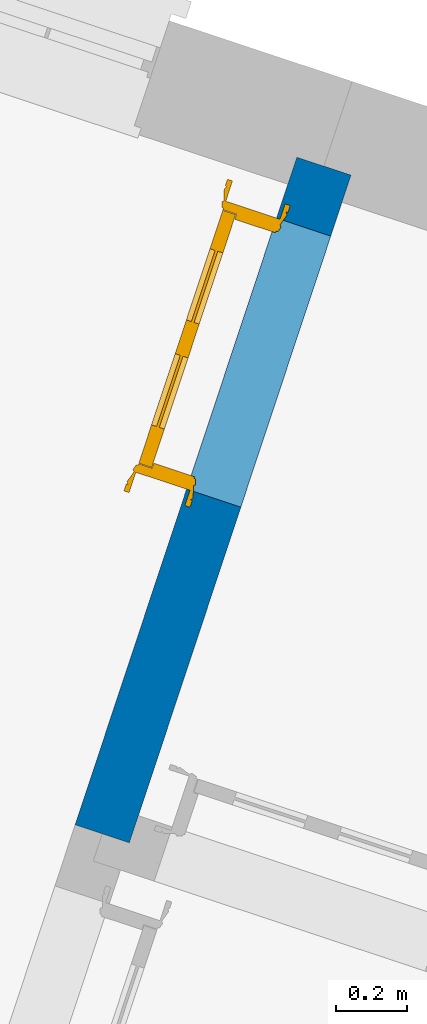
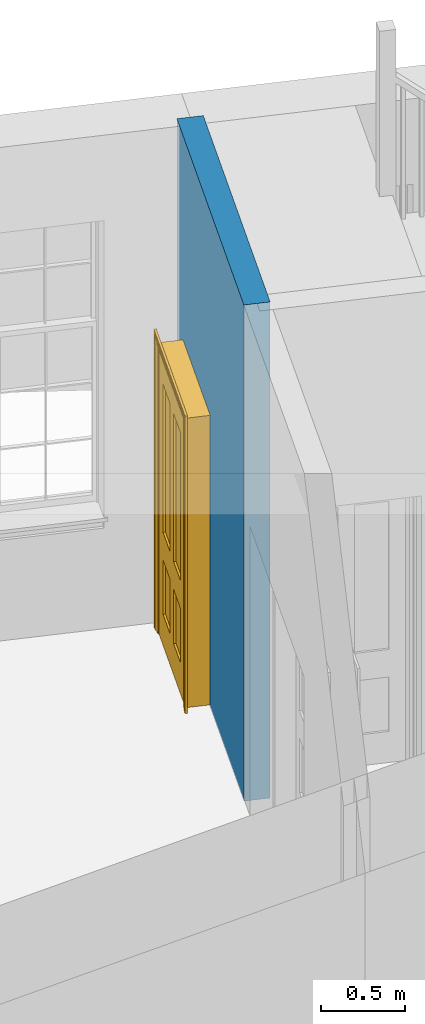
# One storey, part 3 of 6: 1 door, 1 wall, 1 opening.
"""IFC4 building model written with IfcOpenShell, lengths in metres."""

from ifc_helpers import new_model, si_unit, frame, origin, origin_with_axes, place, context, subcontext, project, spatial, polyline, outline, extrude, faceted_brep, source, transform, mapped, material, layer, layer_set, layer_usage, type_object, type_shapes, element, fill, save


model = new_model("IFC4")

# Units and contexts
model_context = context("Model", 3, world=origin_with_axes())
body_context = subcontext(model_context, "Body", "Model", "MODEL_VIEW")
ifc_project = project(units=[si_unit("PLANEANGLEUNIT", "RADIAN"), si_unit("MASSUNIT", "GRAM", prefix="KILO"), si_unit("FORCEUNIT", "NEWTON", prefix="KILO"), si_unit("LENGTHUNIT", "METRE"), si_unit("AREAUNIT", "SQUARE_METRE"), si_unit("VOLUMEUNIT", "CUBIC_METRE")], contexts=[model_context, model_context])

# Sites, building, storey
site_1_placement = place(None, origin_with_axes())
site_1 = spatial("IfcSite", under=ifc_project, at=site_1_placement, Name="Tamar")
site_2_placement = place(site_1_placement, origin_with_axes())
site_2 = spatial("IfcSite", under=site_1, at=site_2_placement, Name="Site plot-17", CompositionType="ELEMENT")
building_placement = place(None, origin_with_axes())
building = spatial("IfcBuilding", under=site_2, at=building_placement, Name="Building plot-17", CompositionType="ELEMENT")
storey_placement = place(None, frame((0.0, 0.0, 26.8), z_axis=(0.0, 0.0, 1.0), x_axis=(1.0, 0.0, 0.0)))
storey = spatial("IfcBuildingStorey", under=building, at=storey_placement, Name="plot-17 0", CompositionType="ELEMENT", Elevation=26.8)

# Wall, opening, door
ifc_material = material(Name="Masonry")
ifc_layer = layer(ifc_material, 0.16, ventilated=False)
ifc_layer_set = layer_set([ifc_layer], Name="interior_0.08_0.08")
ifc_layer_usage = layer_usage(ifc_layer_set, "AXIS2", "POSITIVE", -0.08)
wall_type = type_object("IfcWallType", Name="interior_0.08_0.08", PredefinedType="SOLIDWALL", material=ifc_layer_set)
wall_placement = place(storey_placement, frame((270.492843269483, 304.488688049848, 0.0), z_axis=(0.0, 0.0, 1.0), x_axis=(0.315038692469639, 0.949078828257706, 0.0)))
wall = element("IfcWall", 1, at=wall_placement, inside=storey, type_object=wall_type, material=ifc_layer_usage, Name="interior", context=body_context, shape_type="SweptSolid", body=[
    extrude(outline(polyline([(-1.14526030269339e-14, 0.0799999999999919), (1.1462400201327e-14, -0.0799999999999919), (1.9709590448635, -0.0799999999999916), (1.97095904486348, 0.079999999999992), (-1.14526030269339e-14, 0.0799999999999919)])), origin_with_axes(), (0.0, 0.0, 1.0), 3.6),
])
opening_placement = place(wall_placement, frame((0.990959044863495, 0.0, 0.0199999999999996)))
opening = element("IfcOpeningElement", 2, at=opening_placement, cuts=wall, Name="My Opening", ObjectType="Opening", context=body_context, shape_type="SweptSolid", body=[
    extrude(outline(polyline([(0.0, -0.100000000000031), (0.799999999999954, -0.100000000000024), (0.799999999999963, 1.10000000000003), (8.32667268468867e-15, 1.10000000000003), (0.0, -0.100000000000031)])), origin_with_axes(), (0.0, 0.0, 1.0), 2.1),
])
door_type = type_object("IfcDoorType", Name="door_inside", OperationType="SINGLE_SWING_LEFT", PredefinedType="NOTDEFINED")
shared_shape = source(origin(), body_context, "Body", "Brep", [
    faceted_brep([(0.773, 0.33, 1.895), (0.66, 0.33, 1.895), (0.66, 0.33, 2.073), (0.773, 0.33, 2.073), (0.773, 0.33, 0.82), (0.66, 0.33, 0.82), (0.45, 0.33, 1.895), (0.45, 0.33, 2.073), (0.773, 0.33, 0.62), (0.66, 0.33, 0.62), (0.66, 0.315, 0.82), (0.66, 0.315, 1.895), (0.45, 0.315, 1.895), (0.35, 0.33, 1.895), (0.35, 0.33, 2.073), (0.773, 0.33, 0.225), (0.66, 0.33, 0.225), (0.45, 0.33, 0.62), (0.45, 0.33, 0.82), (0.45, 0.315, 0.82), (0.35, 0.33, 0.82), (0.14, 0.33, 2.073), (0.14, 0.33, 1.895), (0.773, 0.33, 0.0), (0.66, 0.33, 0.0), (0.66, 0.315, 0.225), (0.66, 0.315, 0.62), (0.45, 0.315, 0.62), (0.35, 0.33, 0.62), (0.35, 0.315, 0.82), (0.35, 0.315, 1.895), (0.14, 0.315, 1.895), (0.027, 0.33, 2.073), (0.027, 0.33, 1.895), (0.773, 0.292, 0.0), (0.66, 0.292, 0.0), (0.45, 0.33, 0.0), (0.45, 0.33, 0.225), (0.45, 0.315, 0.225), (0.35, 0.33, 0.225), (0.14, 0.33, 0.82), (0.14, 0.33, 0.62), (0.14, 0.315, 0.82), (0.027, 0.33, 0.82), (0.773, 0.292, 0.225), (0.66, 0.292, 0.225), (0.45, 0.292, 0.0), (0.35, 0.33, 0.0), (0.35, 0.315, 0.225), (0.35, 0.315, 0.62), (0.14, 0.315, 0.62), (0.027, 0.33, 0.62), (0.773, 0.292, 0.62), (0.66, 0.292, 0.62), (0.45, 0.292, 0.225), (0.35, 0.292, 0.0), (0.14, 0.33, 0.225), (0.14, 0.33, 0.0), (0.14, 0.315, 0.225), (0.027, 0.33, 0.225), (0.773, 0.292, 0.82), (0.66, 0.292, 0.82), (0.66, 0.307, 0.62), (0.66, 0.307, 0.225), (0.45, 0.307, 0.225), (0.35, 0.292, 0.225), (0.14, 0.292, 0.0), (0.027, 0.33, 0.0), (0.773, 0.292, 1.895), (0.66, 0.292, 1.895), (0.45, 0.292, 0.62), (0.45, 0.292, 0.82), (0.45, 0.307, 0.62), (0.35, 0.292, 0.62), (0.14, 0.292, 0.225), (0.027, 0.292, 0.0), (0.773, 0.292, 2.073), (0.66, 0.292, 2.073), (0.66, 0.307, 1.895), (0.66, 0.307, 0.82), (0.45, 0.307, 0.82), (0.35, 0.292, 0.82), (0.35, 0.307, 0.62), (0.35, 0.307, 0.225), (0.14, 0.307, 0.225), (0.027, 0.292, 0.225), (0.45, 0.292, 1.895), (0.45, 0.292, 2.073), (0.45, 0.307, 1.895), (0.35, 0.292, 1.895), (0.14, 0.292, 0.82), (0.14, 0.292, 0.62), (0.14, 0.307, 0.62), (0.027, 0.292, 0.62), (0.35, 0.292, 2.073), (0.35, 0.307, 1.895), (0.35, 0.307, 0.82), (0.14, 0.307, 0.82), (0.027, 0.292, 0.82), (0.14, 0.292, 2.073), (0.14, 0.292, 1.895), (0.14, 0.307, 1.895), (0.027, 0.292, 1.895), (0.027, 0.292, 2.073), (0.02, 0.335, 0.0), (0.005, 0.34, 0.0), (0.005, 0.34, 2.095), (0.02, 0.335, 2.08), (0.02, 0.33, 0.0), (0.0, 0.335, 0.0), (0.0, 0.335, 2.1), (0.795, 0.34, 2.095), (0.78, 0.335, 2.08), (0.02, 0.33, 2.08), (0.0, 0.33, 0.0), (-0.032, 0.345, 0.0), (-0.032, 0.345, 2.132), (0.8, 0.335, 2.1), (0.795, 0.34, 0.0), (0.78, 0.335, 0.0), (0.78, 0.33, 2.08), (0.04, 0.29, 0.0), (0.025, 0.29, 0.0), (0.025, 0.29, 2.075), (0.04, 0.29, 2.06), (-0.04, 0.34, 0.0), (-0.04, 0.34, 2.14), (0.832, 0.345, 2.132), (0.8, 0.335, 0.0), (0.78, 0.33, 0.0), (0.8, 0.33, 0.0), (0.86, 0.33, 0.0), (0.86, 0.33, 2.16), (0.8, 0.33, 2.1), (-0.06, 0.33, 2.16), (0.0, 0.33, 2.1), (-0.06, 0.33, 0.0), (-0.04, 0.345, 0.0), (-0.04, 0.345, 2.14), (0.84, 0.34, 2.14), (0.832, 0.345, 0.0), (0.84, 0.34, 0.0), (0.86, 0.345, 0.0), (0.86, 0.345, 2.16), (-0.06, 0.345, 2.16), (-0.06, 0.345, 0.0), (0.84, 0.345, 0.0), (0.84, 0.345, 2.14), (-0.025, 0.155, 0.0), (-0.025, 0.16, 0.0), (-0.025, 0.16, 2.125), (-0.025, 0.155, 2.125), (-0.017, 0.155, 0.0), (-0.017, 0.155, 2.117), (0.825, 0.16, 2.125), (0.825, 0.155, 2.125), (0.825, 0.155, 0.0), (0.845, 0.155, 0.0), (-0.045, 0.155, 2.145), (-0.045, 0.155, 0.0), (0.845, 0.155, 2.145), (0.015, 0.165, 0.0), (0.015, 0.165, 2.085), (0.817, 0.155, 2.117), (0.825, 0.16, 0.0), (0.845, 0.17, 0.0), (0.845, 0.17, 2.145), (-0.045, 0.17, 2.145), (-0.045, 0.17, 0.0), (0.02, 0.16, 0.0), (0.02, 0.16, 2.08), (0.785, 0.165, 2.085), (0.817, 0.155, 0.0), (0.8, 0.17, 0.0), (0.8, 0.17, 2.1), (0.0, 0.17, 2.1), (0.0, 0.17, 0.0), (0.035, 0.165, 0.0), (0.035, 0.165, 2.065), (0.78, 0.16, 2.08), (0.785, 0.165, 0.0), (0.775, 0.29, 2.075), (0.76, 0.29, 2.06), (0.035, 0.17, 2.065), (0.035, 0.17, 0.0), (0.765, 0.165, 2.065), (0.78, 0.16, 0.0), (0.765, 0.17, 0.0), (0.765, 0.17, 2.065), (0.765, 0.165, 0.0), (0.04, 0.17, 2.06), (0.04, 0.17, 0.0), (0.76, 0.17, 2.06), (0.76, 0.17, 0.0), (0.76, 0.29, 0.0), (0.775, 0.29, 0.0), (0.025, 0.33, 0.0), (0.025, 0.33, 2.075), (0.775, 0.33, 0.0), (0.775, 0.33, 2.075)], [[[0, 1, 2, 3]], [[1, 0, 4, 5]], [[1, 6, 7, 2]], [[8, 9, 5, 4]], [[1, 5, 10, 11]], [[6, 1, 11, 12]], [[6, 13, 14, 7]], [[15, 16, 9, 8]], [[9, 17, 18, 5]], [[5, 18, 19, 10]], [[10, 19, 12, 11]], [[18, 6, 12, 19]], [[18, 20, 13, 6]], [[21, 14, 13, 22]], [[23, 24, 16, 15]], [[9, 16, 25, 26]], [[17, 9, 26, 27]], [[17, 28, 20, 18]], [[13, 20, 29, 30]], [[22, 13, 30, 31]], [[32, 21, 22, 33]], [[34, 35, 24, 23]], [[24, 36, 37, 16]], [[16, 37, 38, 25]], [[25, 38, 27, 26]], [[37, 17, 27, 38]], [[37, 39, 28, 17]], [[40, 20, 28, 41]], [[20, 40, 42, 29]], [[31, 30, 29, 42]], [[40, 22, 31, 42]], [[33, 22, 40, 43]], [[35, 34, 44, 45]], [[35, 46, 36, 24]], [[36, 47, 39, 37]], [[28, 39, 48, 49]], [[41, 28, 49, 50]], [[43, 40, 41, 51]], [[45, 44, 52, 53]], [[46, 35, 45, 54]], [[46, 55, 47, 36]], [[56, 39, 47, 57]], [[39, 56, 58, 48]], [[50, 49, 48, 58]], [[56, 41, 50, 58]], [[51, 41, 56, 59]], [[53, 52, 60, 61]], [[45, 53, 62, 63]], [[54, 45, 63, 64]], [[55, 46, 54, 65]], [[55, 66, 57, 47]], [[59, 56, 57, 67]], [[61, 60, 68, 69]], [[70, 53, 61, 71]], [[53, 70, 72, 62]], [[72, 64, 63, 62]], [[70, 54, 64, 72]], [[65, 54, 70, 73]], [[65, 74, 66, 55]], [[67, 57, 66, 75]], [[69, 68, 76, 77]], [[61, 69, 78, 79]], [[71, 61, 79, 80]], [[73, 70, 71, 81]], [[65, 73, 82, 83]], [[74, 65, 83, 84]], [[74, 85, 75, 66]], [[86, 69, 77, 87]], [[69, 86, 88, 78]], [[88, 80, 79, 78]], [[86, 71, 80, 88]], [[81, 71, 86, 89]], [[73, 81, 90, 91]], [[73, 91, 92, 82]], [[83, 82, 92, 84]], [[91, 74, 84, 92]], [[91, 93, 85, 74]], [[89, 86, 87, 94]], [[81, 89, 95, 96]], [[90, 81, 96, 97]], [[90, 98, 93, 91]], [[94, 99, 100, 89]], [[89, 100, 101, 95]], [[101, 97, 96, 95]], [[100, 90, 97, 101]], [[100, 102, 98, 90]], [[99, 103, 102, 100]], [[32, 103, 99, 21]], [[102, 103, 32, 33]], [[98, 102, 33, 43]], [[21, 99, 94, 14]], [[94, 87, 7, 14]], [[7, 87, 77, 2]], [[76, 3, 2, 77]], [[43, 51, 93, 98]], [[51, 59, 85, 93]], [[67, 75, 85, 59]], [[34, 23, 15, 44]], [[44, 15, 8, 52]], [[52, 8, 4, 60]], [[0, 68, 60, 4]], [[0, 3, 76, 68]], [[104, 105, 106, 107]], [[104, 108, 109, 105]], [[105, 109, 110, 106]], [[107, 106, 111, 112]], [[107, 113, 108, 104]], [[114, 109, 108]], [[109, 115, 116, 110]], [[106, 110, 117, 111]], [[112, 111, 118, 119]], [[113, 107, 112, 120]], [[121, 122, 123, 124]], [[115, 109, 114, 125]], [[115, 125, 126, 116]], [[110, 116, 127, 117]], [[111, 117, 128, 118]], [[118, 128, 129, 119]], [[120, 112, 119, 129]], [[130, 129, 128]], [[130, 131, 132, 133]], [[133, 132, 134, 135]], [[135, 134, 136, 114]], [[136, 125, 114]], [[125, 137, 138, 126]], [[116, 126, 139, 127]], [[117, 127, 140, 128]], [[141, 130, 128, 140]], [[131, 130, 141]], [[131, 142, 143, 132]], [[132, 143, 144, 134]], [[134, 144, 145, 136]], [[137, 125, 136, 145]], [[143, 142, 146]], [[143, 146, 147]], [[137, 145, 144]], [[143, 147, 138]], [[138, 137, 144]], [[143, 138, 144]], [[126, 138, 147, 139]], [[127, 139, 141, 140]], [[142, 131, 141, 146]], [[139, 147, 146, 141]], [[148, 149, 150, 151]], [[149, 152, 153, 150]], [[151, 150, 154, 155]], [[155, 156, 157]], [[158, 159, 148]], [[158, 148, 151]], [[155, 157, 160]], [[158, 151, 155]], [[155, 160, 158]], [[152, 161, 162, 153]], [[150, 153, 163, 154]], [[155, 154, 164, 156]], [[156, 164, 165, 157]], [[157, 165, 166, 160]], [[160, 166, 167, 158]], [[158, 167, 168, 159]], [[161, 169, 170, 162]], [[153, 162, 171, 163]], [[154, 163, 172, 164]], [[165, 164, 173]], [[165, 173, 174, 166]], [[166, 174, 175, 167]], [[167, 175, 176, 168]], [[169, 177, 178, 170]], [[162, 170, 179, 171]], [[163, 171, 180, 172]], [[172, 180, 173, 164]], [[124, 123, 181, 182]], [[183, 178, 177, 184]], [[170, 178, 185, 179]], [[171, 179, 186, 180]], [[187, 173, 180]], [[185, 188, 187, 189]], [[188, 185, 178, 183]], [[179, 185, 189, 186]], [[189, 187, 180, 186]], [[190, 183, 184, 191]], [[192, 188, 183, 190]], [[191, 184, 122, 121]], [[124, 190, 191, 121]], [[193, 187, 188, 192]], [[182, 192, 190, 124]], [[184, 176, 122]], [[194, 195, 187, 193]], [[192, 182, 194, 193]], [[161, 176, 184]], [[114, 108, 122, 176]], [[173, 187, 195]], [[152, 149, 176, 161]], [[169, 161, 184, 177]], [[196, 122, 108]], [[176, 175, 135, 114]], [[173, 195, 129, 130]], [[176, 149, 168]], [[123, 122, 196, 197]], [[196, 108, 113, 197]], [[175, 174, 133, 135]], [[198, 129, 195]], [[133, 174, 173, 130]], [[159, 168, 149, 148]], [[181, 123, 197, 199]], [[197, 113, 120, 199]], [[199, 120, 129, 198]], [[195, 181, 199, 198]], [[195, 194, 182, 181]]]),
])
type_shapes(door_type, [shared_shape])
door_placement = place(storey_placement, frame((270.899941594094, 305.397682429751, 0.0199999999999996), z_axis=(0.0, 0.0, 1.0), x_axis=(0.252030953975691, 0.759263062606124, 0.0)))
door = element("IfcDoor", 3, at=door_placement, inside=storey, type_object=door_type, Name="living inside door", OverallHeight=2.1, OverallWidth=0.8, context=body_context, shape_type="MappedRepresentation", body=[
    mapped(shared_shape, transform((0.0, 0.0, 0.0), scale=1.0)),
])
fill(opening, door)

save(model, "model.ifc")
